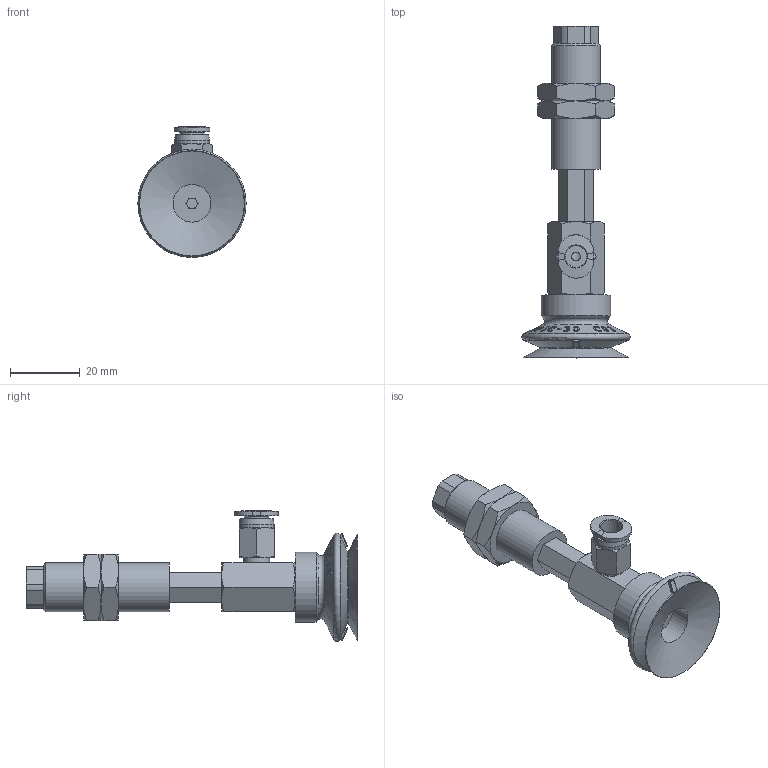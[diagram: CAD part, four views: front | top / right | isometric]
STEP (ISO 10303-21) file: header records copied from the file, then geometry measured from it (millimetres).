
FILE_DESCRIPTION(('STEP AP214'),'1');
FILE_NAME('-O.stp','2026-01-21T07:11:59',(' '),(' '),'Spatial InterOp 3D',' ',' ');
FILE_SCHEMA(('AUTOMOTIVE_DESIGN { 1 0 10303 214 1 1 1 1 }'));
Length unit declared in the file: millimetre
Products named in the file (8): BNABPJYH-30-15-※-O; PC-C_06-M5; BPJG-30-※; Adapter-30-NAPJ; CONNECTOR_H-30-15; NAPJH-30-15-NUT; NAPJYH-30-15-FBODY; NAPJYH-30-15-MBODY
Assembly tree (8 placements, depth 2):
  BNABPJYH-30-15-※-O
    PC-C_06-M5
    BPJG-30-※
    Adapter-30-NAPJ
    CONNECTOR_H-30-15
    NAPJH-30-15-NUT  x2
    NAPJYH-30-15-FBODY
    NAPJYH-30-15-MBODY
Bounding box: 30.99 x 95 x 37.48 mm (x, y, z)
Volume: 17748.3 mm3; surface area: 13893.8 mm2
Topology: 7 solids, 10 shells, 843 faces, 2299 edges, 1504 vertices
Faces by surface type: plane 704, cone 86, cylinder 37, torus 9, bspline 4, revolution 3
Full cylindrical faces by diameter (mm): 3 x2, 4 x2, 4.134 x2, 4.917 x1, 5 x2, 5.8 x1, 6 x1, 7 x1, 7.4 x1, 8.2 x1, 10 x1, 10.8 x1, 11 x1, 13.188 x2, 14 x1, 20 x1
Entity records: 33593 total; most frequent: CARTESIAN_POINT 8397, ORIENTED_EDGE 4392, DIRECTION 2870, EDGE_CURVE 2198, VERTEX_POINT 1469, B_SPLINE_CURVE_WITH_KNOTS 1092, AXIS2_PLACEMENT_3D 961, LINE 945
